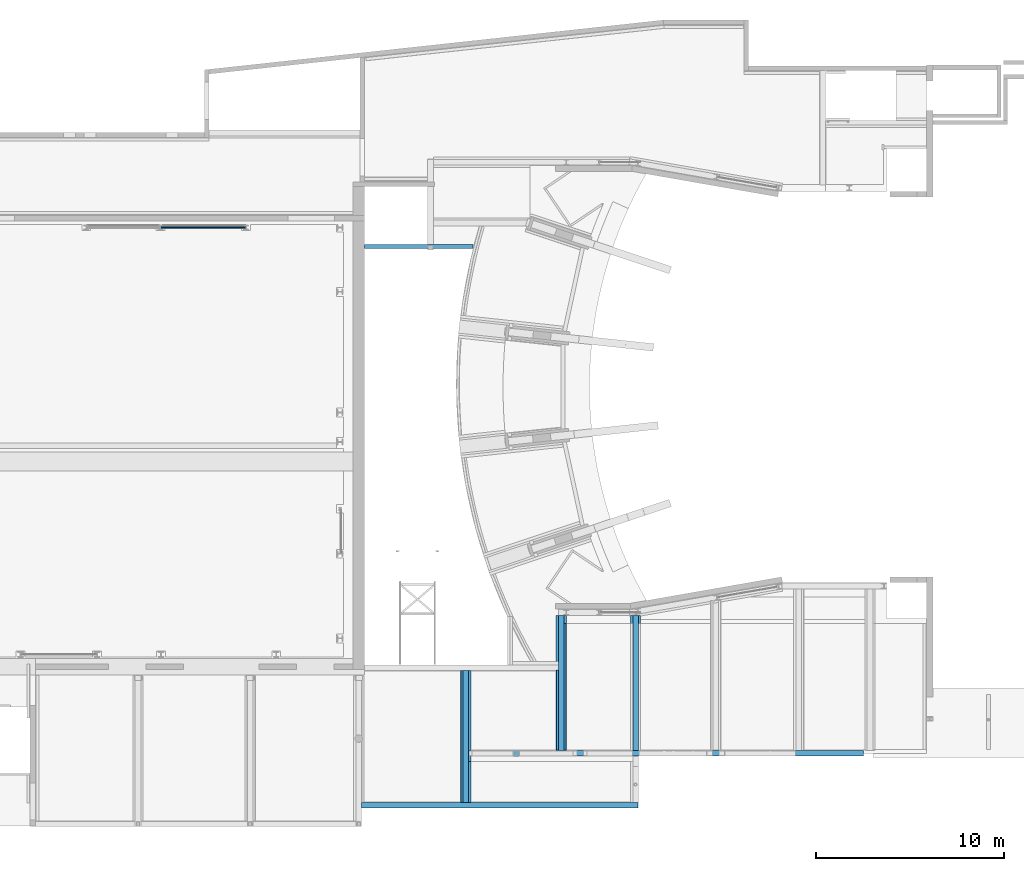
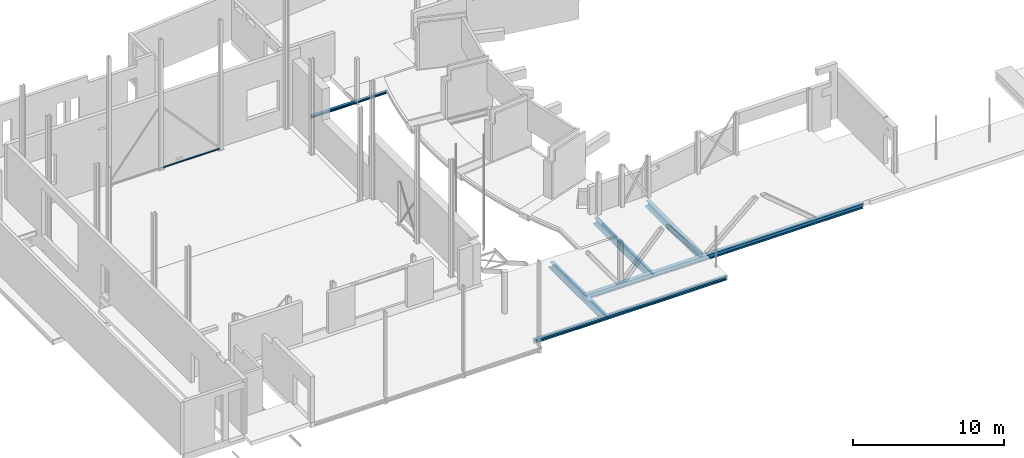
# One storey, part 14 of 37: 12 beams.
"""IFC2X3 building model written with IfcOpenShell, lengths in millimetres."""

from ifc_helpers import new_model, entity, si_unit, converted_unit, derived_unit, direction, frame, frame_2d, origin, origin_2d_with_axis, place, context, subcontext, project, spatial, polyline, circle_curve, parameter, trimmed, segment, composite_curve, rectangle, i_section, outline, extrude, source, transform, mapped, material, material_list, type_object, type_shapes, element, save


model = new_model("IFC2X3")

# Units and contexts
model_context = context("Model", 3, precision=0.01, world=origin(), true_north=direction((6.12303176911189e-17, 1.0)))
body_context = subcontext(model_context, "Body", "Model", "MODEL_VIEW")
ifc_project = project(units=[si_unit("LENGTHUNIT", "METRE", prefix="MILLI"), si_unit("AREAUNIT", "SQUARE_METRE", prefix="MILLI"), si_unit("VOLUMEUNIT", "CUBIC_METRE"), converted_unit("PLANEANGLEUNIT", "DEGREE", entity("IfcRatioMeasure", 0.0174532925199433), si_unit("PLANEANGLEUNIT", "RADIAN"), dimensions=[0, 0, 0, 0, 0, 0, 0]), si_unit("MASSUNIT", "GRAM", prefix="KILO"), derived_unit("MASSDENSITYUNIT", [(si_unit("MASSUNIT", "GRAM", prefix="KILO"), 1), (si_unit("LENGTHUNIT", "METRE"), -3)]), derived_unit("MOMENTOFINERTIAUNIT", [(si_unit("LENGTHUNIT", "METRE"), 4)]), si_unit("TIMEUNIT", "SECOND"), si_unit("FREQUENCYUNIT", "HERTZ"), si_unit("THERMODYNAMICTEMPERATUREUNIT", "DEGREE_CELSIUS"), derived_unit("THERMALTRANSMITTANCEUNIT", [(si_unit("MASSUNIT", "GRAM", prefix="KILO"), 1), (si_unit("THERMODYNAMICTEMPERATUREUNIT", "KELVIN"), -1), (si_unit("TIMEUNIT", "SECOND"), -3)]), derived_unit("VOLUMETRICFLOWRATEUNIT", [(si_unit("LENGTHUNIT", "METRE"), 3), (si_unit("TIMEUNIT", "SECOND"), -1)]), si_unit("ELECTRICCURRENTUNIT", "AMPERE"), si_unit("ELECTRICVOLTAGEUNIT", "VOLT"), si_unit("POWERUNIT", "WATT"), si_unit("FORCEUNIT", "NEWTON", prefix="KILO"), si_unit("ILLUMINANCEUNIT", "LUX"), si_unit("LUMINOUSFLUXUNIT", "LUMEN"), si_unit("LUMINOUSINTENSITYUNIT", "CANDELA"), derived_unit("USERDEFINED", [(si_unit("MASSUNIT", "GRAM", prefix="KILO"), -1), (si_unit("LENGTHUNIT", "METRE"), -2), (si_unit("TIMEUNIT", "SECOND"), 3), (si_unit("LUMINOUSFLUXUNIT", "LUMEN"), 1)]), derived_unit("LINEARVELOCITYUNIT", [(si_unit("LENGTHUNIT", "METRE"), 1), (si_unit("TIMEUNIT", "SECOND"), -1)]), si_unit("PRESSUREUNIT", "PASCAL"), derived_unit("USERDEFINED", [(si_unit("LENGTHUNIT", "METRE"), -2), (si_unit("MASSUNIT", "GRAM", prefix="KILO"), 1), (si_unit("TIMEUNIT", "SECOND"), -2)]), derived_unit("LINEARFORCEUNIT", [(si_unit("MASSUNIT", "GRAM", prefix="KILO"), 1), (si_unit("LENGTHUNIT", "METRE"), 1), (si_unit("TIMEUNIT", "SECOND"), -2), (si_unit("LENGTHUNIT", "METRE"), -1)]), derived_unit("PLANARFORCEUNIT", [(si_unit("MASSUNIT", "GRAM", prefix="KILO"), 1), (si_unit("LENGTHUNIT", "METRE"), 1), (si_unit("TIMEUNIT", "SECOND"), -2), (si_unit("LENGTHUNIT", "METRE"), -2)])], contexts=[model_context])

# Site, building, storey
site_placement = place(None, origin())
site = spatial("IfcSite", under=ifc_project, at=site_placement, Name="Theater aan de Parade", CompositionType="ELEMENT")
building_placement = place(site_placement, origin())
building = spatial("IfcBuilding", under=site, at=building_placement, Name="Theater aan de Parade", CompositionType="ELEMENT")
storey_placement = place(building_placement, frame((0.0, 0.0, 5020.0)))
storey = spatial("IfcBuildingStorey", under=building, at=storey_placement, Name="01 eerste verdieping", CompositionType="ELEMENT", Elevation=5020.0)

# Beams
ifc_material_1 = material(Name="00_PBT_MAT_staal_S355")
beam_type_1 = type_object("IfcBeamType", Name="28_PBT_SF_staal_H-profiel (void):S355_HE280B", PredefinedType="NOTDEFINED")
beam_1_placement = place(storey_placement, frame((52015.3051596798, 10197.0, 0.0), z_axis=(0.0, 0.0, 1.0), x_axis=(-1.0, 0.0, 0.0)))
element("IfcBeam", 1, at=beam_1_placement, inside=storey, type_object=beam_type_1, material=ifc_material_1, Name="28_PBT_SF_staal_H-profiel (void):S355_HE280B", ObjectType="28_PBT_SF_staal_H-profiel (void):S355_HE280B", context=body_context, shape_type="SweptSolid", body=[
    extrude(outline(composite_curve([segment(polyline([(122.0, -140.0), (140.0, -140.0)]), True, "CONTINUOUS"), segment(polyline([(140.0, -140.0), (140.0, 140.0)]), True, "CONTINUOUS"), segment(polyline([(140.0, 140.0), (122.0, 140.0)]), True, "CONTINUOUS"), segment(polyline([(122.0, 140.0), (122.0, 29.2500000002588)]), True, "CONTINUOUS"), segment(trimmed(circle_curve(frame_2d((98.0, 29.250000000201), x_axis=(1.0, 0.0)), 24.0000000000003), [parameter(270.000000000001)], [parameter(0.0)], True, "PARAMETER"), False, "CONTINUOUS"), segment(polyline([(98.0, 5.25000000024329), (-98.0, 5.24999999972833)]), True, "CONTINUOUS"), segment(trimmed(circle_curve(frame_2d((-98.0, 29.2499999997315), x_axis=(0.0, -1.0)), 24.0000000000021), [parameter(270.00000000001)], [parameter(0.0)], True, "PARAMETER"), False, "CONTINUOUS"), segment(polyline([(-122.0, 29.2499999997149), (-122.0, 140.0)]), True, "CONTINUOUS"), segment(polyline([(-122.0, 140.0), (-140.0, 140.0)]), True, "CONTINUOUS"), segment(polyline([(-140.0, 140.0), (-140.0, -140.0)]), True, "CONTINUOUS"), segment(polyline([(-140.0, -140.0), (-122.0, -140.0)]), True, "CONTINUOUS"), segment(polyline([(-122.0, -140.0), (-122.0, -29.2500000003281)]), True, "CONTINUOUS"), segment(trimmed(circle_curve(frame_2d((-98.0, -29.2500000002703), x_axis=(-1.0, 0.0)), 24.0000000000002), [parameter(270.0)], [parameter(0.0)], True, "PARAMETER"), False, "CONTINUOUS"), segment(polyline([(-98.0, -5.25000000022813), (98.0, -5.2499999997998)]), True, "CONTINUOUS"), segment(trimmed(circle_curve(frame_2d((98.0, -29.2499999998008), x_axis=(0.0, 1.0)), 24.0000000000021), [parameter(270.00000000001)], [parameter(0.0)], True, "PARAMETER"), False, "CONTINUOUS"), segment(polyline([(122.0, -29.2499999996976), (122.0, -140.0)]), True, "CONTINUOUS")], self_intersect=False)), frame((0.0, 0.0, -320.0), z_axis=(1.0, 0.0, 0.0), x_axis=(0.0, 0.0, -1.0)), (0.0, 0.0, 1.0), 14711.4470295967),
])
beam_type_2 = type_object("IfcBeamType", Name="28_PBT_SF_staal_H-profiel (void):S355_HE400B", PredefinedType="NOTDEFINED")
beam_2_placement = place(storey_placement, frame((42694.5520755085, 12955.0, -340.0)))
element("IfcBeam", 2, at=beam_2_placement, inside=storey, type_object=beam_type_2, material=ifc_material_1, Name="28_PBT_SF_staal_H-profiel (void):S355_HE400B", ObjectType="28_PBT_SF_staal_H-profiel (void):S355_HE400B", context=body_context, shape_type="SweptSolid", body=[
    extrude(i_section(OverallWidth=300.000000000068, OverallDepth=400.0, WebThickness=13.4999999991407, FlangeThickness=23.9999999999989, FilletRadius=27.0000000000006, at=frame_2d((0.0, 0.0), x_axis=(0.0, 1.0))), frame((0.0, 0.0, 0.0), z_axis=(1.0, 0.0, 0.0), x_axis=(0.0, 0.0, -1.0)), (0.0, 0.0, 1.0), 21300.0),
])
beam_type_3 = type_object("IfcBeamType", Name="28_PBT_SF_staal_H-profiel (void):S355_HE200A", PredefinedType="NOTDEFINED")
beam_3_placement = place(storey_placement, frame((43240.4403482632, 39911.0, 0.0), z_axis=(0.0, 0.0, 1.0), x_axis=(-1.0, 0.0, 0.0)))
element("IfcBeam", 3, at=beam_3_placement, inside=storey, type_object=beam_type_3, material=ifc_material_1, Name="28_PBT_SF_staal_H-profiel (void):S355_HE200A", ObjectType="28_PBT_SF_staal_H-profiel (void):S355_HE200A", context=body_context, shape_type="SweptSolid", body=[
    extrude(outline(composite_curve([segment(polyline([(85.0, -100.0), (95.0, -100.0)]), True, "CONTINUOUS"), segment(polyline([(95.0, -100.0), (95.0, 100.0)]), True, "CONTINUOUS"), segment(polyline([(95.0, 100.0), (85.0, 100.0)]), True, "CONTINUOUS"), segment(polyline([(85.0, 100.0), (85.0, 21.2500000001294)]), True, "CONTINUOUS"), segment(trimmed(circle_curve(frame_2d((67.0, 21.2500000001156), x_axis=(1.0, 0.0)), 17.9999999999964), [parameter(269.999999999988)], [parameter(0.0)], True, "PARAMETER"), False, "CONTINUOUS"), segment(polyline([(67.0, 3.25000000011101), (-67.0, 3.24999999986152)]), True, "CONTINUOUS"), segment(trimmed(circle_curve(frame_2d((-67.0, 21.2499999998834), x_axis=(0.0, -1.0)), 17.9999999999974), [parameter(269.99999999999)], [parameter(0.0)], True, "PARAMETER"), False, "CONTINUOUS"), segment(polyline([(-85.0, 21.2499999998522), (-85.0, 100.0)]), True, "CONTINUOUS"), segment(polyline([(-85.0, 100.0), (-95.0, 100.0)]), True, "CONTINUOUS"), segment(polyline([(-95.0, 100.0), (-95.0, -100.0)]), True, "CONTINUOUS"), segment(polyline([(-95.0, -100.0), (-85.0, -100.0)]), True, "CONTINUOUS"), segment(polyline([(-85.0, -100.0), (-85.0, -21.2500000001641)]), True, "CONTINUOUS"), segment(trimmed(circle_curve(frame_2d((-67.0, -21.2500000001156), x_axis=(-1.0, 0.0)), 17.9999999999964), [parameter(269.999999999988)], [parameter(0.0)], True, "PARAMETER"), False, "CONTINUOUS"), segment(polyline([(-67.0, -3.25000000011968), (67.0, -3.24999999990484)]), True, "CONTINUOUS"), segment(trimmed(circle_curve(frame_2d((67.0, -21.2499999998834), x_axis=(0.0, 1.0)), 17.9999999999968), [parameter(269.99999999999)], [parameter(0.0)], True, "PARAMETER"), False, "CONTINUOUS"), segment(polyline([(85.0, -21.2499999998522), (85.0, -100.0)]), True, "CONTINUOUS")], self_intersect=False)), frame((0.0, 0.0, -285.0), z_axis=(1.0, 0.0, 0.0), x_axis=(0.0, 0.0, -1.0)), (0.0, 0.0, 1.0), 5786.58221817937),
])
ifc_material_2 = material(Name="00_PBT_MAT_staal_S235")
beam_type_4 = type_object("IfcBeamType", Name="28_PBT_SF_staal_koker:S235_K80x120x6.3", PredefinedType="NOTDEFINED")
beam_4_placement = place(storey_placement, frame((43114.5520755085, 10337.0, 0.0), z_axis=(0.0, 0.0, 1.0), x_axis=(0.0, 1.0, 0.0)))
element("IfcBeam", 4, at=beam_4_placement, inside=storey, type_object=beam_type_4, material=ifc_material_2, Name="28_PBT_SF_staal_koker:S235_K80x120x6.3", ObjectType="28_PBT_SF_staal_koker:S235_K80x120x6.3", context=body_context, shape_type="SweptSolid", body=[
    extrude(outline(composite_curve([segment(polyline([(-30.5500000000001, -60.0), (30.5499999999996, -60.0)]), True, "CONTINUOUS"), segment(trimmed(circle_curve(frame_2d((30.5499999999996, -50.5500000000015), x_axis=(0.0, 1.0)), 9.45), [parameter(180.0)], [parameter(270.0)], True, "PARAMETER"), True, "CONTINUOUS"), segment(polyline([(40.0, -50.5500000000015), (40.0, 50.5500000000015)]), True, "CONTINUOUS"), segment(trimmed(circle_curve(frame_2d((30.5499999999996, 50.5500000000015), x_axis=(0.0, 1.0)), 9.45), [parameter(270.0)], [parameter(360.0)], True, "PARAMETER"), True, "CONTINUOUS"), segment(polyline([(30.5499999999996, 60.0), (-30.5500000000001, 60.0)]), True, "CONTINUOUS"), segment(trimmed(circle_curve(frame_2d((-30.5500000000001, 50.5500000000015), x_axis=(0.0, 1.0)), 9.45), [parameter(0.0)], [parameter(90.0000000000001)], True, "PARAMETER"), True, "CONTINUOUS"), segment(polyline([(-40.0, 50.5500000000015), (-40.0, -50.5500000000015)]), True, "CONTINUOUS"), segment(trimmed(circle_curve(frame_2d((-30.5500000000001, -50.5500000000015), x_axis=(0.0, 1.0)), 9.45), [parameter(90.0)], [parameter(180.0)], True, "PARAMETER"), True, "CONTINUOUS")], self_intersect=False), holes=[composite_curve([segment(polyline([(33.6999999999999, 47.3999999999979), (33.6999999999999, -47.3999999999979)]), True, "CONTINUOUS"), segment(trimmed(circle_curve(frame_2d((27.3999999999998, -47.3999999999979), x_axis=(0.0, 1.0)), 6.3), [parameter(180.0)], [parameter(270.0)], True, "PARAMETER"), False, "CONTINUOUS"), segment(polyline([(27.3999999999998, -53.6999999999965), (-27.4000000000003, -53.6999999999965)]), True, "CONTINUOUS"), segment(trimmed(circle_curve(frame_2d((-27.4000000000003, -47.3999999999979), x_axis=(0.0, 1.0)), 6.3), [parameter(90.0)], [parameter(180.0)], True, "PARAMETER"), False, "CONTINUOUS"), segment(polyline([(-33.7000000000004, -47.3999999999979), (-33.7000000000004, 47.3999999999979)]), True, "CONTINUOUS"), segment(trimmed(circle_curve(frame_2d((-27.4000000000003, 47.3999999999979), x_axis=(0.0, 1.0)), 6.3), [parameter(4.07110999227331e-13)], [parameter(90.0000000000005)], True, "PARAMETER"), False, "CONTINUOUS"), segment(polyline([(-27.4000000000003, 53.6999999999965), (27.3999999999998, 53.6999999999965)]), True, "CONTINUOUS"), segment(trimmed(circle_curve(frame_2d((27.3999999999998, 47.3999999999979), x_axis=(0.0, 1.0)), 6.3), [parameter(270.0)], [parameter(360.0)], True, "PARAMETER"), False, "CONTINUOUS")], self_intersect=False)]), frame((0.0, 60.0, -505.0), z_axis=(1.0, 0.0, 0.0), x_axis=(0.0, 0.0, 1.0)), (0.0, 0.0, 1.0), 2182.99999999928),
])
beam_5_placement = place(storey_placement, frame((42574.5520755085, 17350.244375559, 0.0), z_axis=(0.0, 0.0, 1.0), x_axis=(0.0, -1.0, 0.0)))
element("IfcBeam", 5, at=beam_5_placement, inside=storey, type_object=beam_type_4, material=ifc_material_2, Name="28_PBT_SF_staal_koker:S235_K80x120x6.3", ObjectType="28_PBT_SF_staal_koker:S235_K80x120x6.3", context=body_context, shape_type="SweptSolid", body=[
    extrude(outline(composite_curve([segment(polyline([(-30.5500000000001, -60.0), (30.5499999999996, -60.0)]), True, "CONTINUOUS"), segment(trimmed(circle_curve(frame_2d((30.5499999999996, -50.5500000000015), x_axis=(0.0, 1.0)), 9.45), [parameter(180.0)], [parameter(270.0)], True, "PARAMETER"), True, "CONTINUOUS"), segment(polyline([(40.0, -50.5500000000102), (40.0, 50.5499999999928)]), True, "CONTINUOUS"), segment(trimmed(circle_curve(frame_2d((30.5499999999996, 50.5500000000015), x_axis=(0.0, 1.0)), 9.45), [parameter(270.0)], [parameter(360.0)], True, "PARAMETER"), True, "CONTINUOUS"), segment(polyline([(30.5499999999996, 60.0), (-30.5500000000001, 60.0)]), True, "CONTINUOUS"), segment(trimmed(circle_curve(frame_2d((-30.5500000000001, 50.5500000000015), x_axis=(0.0, 1.0)), 9.45), [parameter(0.0)], [parameter(90.0000000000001)], True, "PARAMETER"), True, "CONTINUOUS"), segment(polyline([(-40.0, 50.5499999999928), (-40.0, -50.5500000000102)]), True, "CONTINUOUS"), segment(trimmed(circle_curve(frame_2d((-30.5500000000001, -50.5500000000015), x_axis=(0.0, 1.0)), 9.45), [parameter(90.0)], [parameter(180.0)], True, "PARAMETER"), True, "CONTINUOUS")], self_intersect=False), holes=[composite_curve([segment(polyline([(33.6999999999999, 47.3999999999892), (33.6999999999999, -47.4000000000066)]), True, "CONTINUOUS"), segment(trimmed(circle_curve(frame_2d((27.3999999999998, -47.3999999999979), x_axis=(0.0, 1.0)), 6.3), [parameter(180.0)], [parameter(270.0)], True, "PARAMETER"), False, "CONTINUOUS"), segment(polyline([(27.3999999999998, -53.7000000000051), (-27.4000000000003, -53.7000000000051)]), True, "CONTINUOUS"), segment(trimmed(circle_curve(frame_2d((-27.4000000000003, -47.3999999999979), x_axis=(0.0, 1.0)), 6.3), [parameter(90.0)], [parameter(180.0)], True, "PARAMETER"), False, "CONTINUOUS"), segment(polyline([(-33.7000000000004, -47.4000000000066), (-33.7000000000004, 47.3999999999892)]), True, "CONTINUOUS"), segment(trimmed(circle_curve(frame_2d((-27.4000000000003, 47.3999999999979), x_axis=(0.0, 1.0)), 6.3), [parameter(4.07110999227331e-13)], [parameter(90.0000000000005)], True, "PARAMETER"), False, "CONTINUOUS"), segment(polyline([(-27.4000000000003, 53.6999999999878), (27.3999999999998, 53.6999999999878)]), True, "CONTINUOUS"), segment(trimmed(circle_curve(frame_2d((27.3999999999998, 47.3999999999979), x_axis=(0.0, 1.0)), 6.3), [parameter(270.0)], [parameter(360.0)], True, "PARAMETER"), False, "CONTINUOUS")], self_intersect=False)]), frame((0.0, 60.0, -505.0), z_axis=(1.0, 0.0, 0.0), x_axis=(0.0, 0.0, 1.0)), (0.0, 0.0, 1.0), 7013.24437555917),
])
beam_6_placement = place(storey_placement, frame((43114.5520755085, 17350.244375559, 0.0), z_axis=(0.0, 0.0, 1.0), x_axis=(0.0, -1.0, 0.0)))
element("IfcBeam", 6, at=beam_6_placement, inside=storey, type_object=beam_type_4, material=ifc_material_2, Name="28_PBT_SF_staal_koker:S235_K80x120x6.3", ObjectType="28_PBT_SF_staal_koker:S235_K80x120x6.3", context=body_context, shape_type="SweptSolid", body=[
    extrude(outline(composite_curve([segment(trimmed(circle_curve(frame_2d((-50.5500000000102, -30.5500000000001), x_axis=(1.0, 0.0)), 9.45), [parameter(180.0)], [parameter(270.0)], True, "PARAMETER"), True, "CONTINUOUS"), segment(polyline([(-50.5500000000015, -40.0), (50.5500000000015, -40.0)]), True, "CONTINUOUS"), segment(trimmed(circle_curve(frame_2d((50.5499999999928, -30.5500000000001), x_axis=(1.0, 0.0)), 9.45), [parameter(270.0)], [parameter(0.0)], True, "PARAMETER"), True, "CONTINUOUS"), segment(polyline([(60.0, -30.5500000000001), (60.0, 30.5499999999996)]), True, "CONTINUOUS"), segment(trimmed(circle_curve(frame_2d((50.5499999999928, 30.5499999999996), x_axis=(1.0, 0.0)), 9.45), [parameter(3.56222124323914e-13)], [parameter(90.0000000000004)], True, "PARAMETER"), True, "CONTINUOUS"), segment(polyline([(50.5500000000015, 40.0), (-50.5500000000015, 40.0)]), True, "CONTINUOUS"), segment(trimmed(circle_curve(frame_2d((-50.5500000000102, 30.5499999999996), x_axis=(1.0, 0.0)), 9.45), [parameter(90.0000000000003)], [parameter(180.0)], True, "PARAMETER"), True, "CONTINUOUS"), segment(polyline([(-60.0, 30.5499999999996), (-60.0, -30.5500000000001)]), True, "CONTINUOUS")], self_intersect=False), holes=[composite_curve([segment(trimmed(circle_curve(frame_2d((47.3999999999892, 27.3999999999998), x_axis=(1.0, 0.0)), 6.3), [parameter(5.08888749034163e-14)], [parameter(90.0000000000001)], True, "PARAMETER"), False, "CONTINUOUS"), segment(polyline([(53.6999999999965, 27.3999999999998), (53.6999999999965, -27.4000000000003)]), True, "CONTINUOUS"), segment(trimmed(circle_curve(frame_2d((47.3999999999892, -27.4000000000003), x_axis=(1.0, 0.0)), 6.3), [parameter(269.999999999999)], [parameter(360.0)], True, "PARAMETER"), False, "CONTINUOUS"), segment(polyline([(47.3999999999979, -33.7000000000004), (-47.3999999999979, -33.7000000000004)]), True, "CONTINUOUS"), segment(trimmed(circle_curve(frame_2d((-47.4000000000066, -27.4000000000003), x_axis=(1.0, 0.0)), 6.3), [parameter(180.0)], [parameter(270.0)], True, "PARAMETER"), False, "CONTINUOUS"), segment(polyline([(-53.6999999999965, -27.4000000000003), (-53.6999999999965, 27.3999999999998)]), True, "CONTINUOUS"), segment(trimmed(circle_curve(frame_2d((-47.4000000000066, 27.3999999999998), x_axis=(1.0, 0.0)), 6.3), [parameter(89.9999999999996)], [parameter(180.0)], True, "PARAMETER"), False, "CONTINUOUS"), segment(polyline([(-47.3999999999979, 33.6999999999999), (47.3999999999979, 33.6999999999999)]), True, "CONTINUOUS")], self_intersect=False)]), frame((0.0, -60.0, -505.0), z_axis=(1.0, 0.0, 0.0), x_axis=(0.0, 1.0, 0.0)), (0.0, 0.0, 1.0), 4245.24437555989),
])
beam_7_placement = place(storey_placement, frame((47651.4115208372, 17381.3084468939, 0.0), z_axis=(0.0, 0.0, 1.0), x_axis=(0.0, -1.0, 0.0)))
element("IfcBeam", 7, at=beam_7_placement, inside=storey, type_object=beam_type_4, material=ifc_material_2, Name="28_PBT_SF_staal_koker:S235_K80x120x6.3", ObjectType="28_PBT_SF_staal_koker:S235_K80x120x6.3", context=body_context, shape_type="SweptSolid", body=[
    extrude(outline(composite_curve([segment(polyline([(-30.5500000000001, -60.0), (30.5499999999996, -60.0)]), True, "CONTINUOUS"), segment(trimmed(circle_curve(frame_2d((30.5499999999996, -50.5499999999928), x_axis=(0.0, 1.0)), 9.45), [parameter(180.0)], [parameter(270.0)], True, "PARAMETER"), True, "CONTINUOUS"), segment(polyline([(40.0, -50.5500000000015), (40.0, 50.5500000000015)]), True, "CONTINUOUS"), segment(trimmed(circle_curve(frame_2d((30.5499999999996, 50.5500000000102), x_axis=(0.0, 1.0)), 9.45), [parameter(270.0)], [parameter(360.0)], True, "PARAMETER"), True, "CONTINUOUS"), segment(polyline([(30.5499999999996, 60.0), (-30.5500000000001, 60.0)]), True, "CONTINUOUS"), segment(trimmed(circle_curve(frame_2d((-30.5500000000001, 50.5500000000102), x_axis=(0.0, 1.0)), 9.45), [parameter(0.0)], [parameter(90.0000000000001)], True, "PARAMETER"), True, "CONTINUOUS"), segment(polyline([(-40.0, 50.5500000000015), (-40.0, -50.5500000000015)]), True, "CONTINUOUS"), segment(trimmed(circle_curve(frame_2d((-30.5500000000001, -50.5499999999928), x_axis=(0.0, 1.0)), 9.45), [parameter(90.0)], [parameter(180.0)], True, "PARAMETER"), True, "CONTINUOUS")], self_intersect=False), holes=[composite_curve([segment(polyline([(33.6999999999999, 47.3999999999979), (33.6999999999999, -47.3999999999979)]), True, "CONTINUOUS"), segment(trimmed(circle_curve(frame_2d((27.3999999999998, -47.3999999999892), x_axis=(0.0, 1.0)), 6.3), [parameter(180.0)], [parameter(270.0)], True, "PARAMETER"), False, "CONTINUOUS"), segment(polyline([(27.3999999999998, -53.6999999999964), (-27.4000000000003, -53.6999999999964)]), True, "CONTINUOUS"), segment(trimmed(circle_curve(frame_2d((-27.4000000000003, -47.3999999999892), x_axis=(0.0, 1.0)), 6.3), [parameter(90.0)], [parameter(180.0)], True, "PARAMETER"), False, "CONTINUOUS"), segment(polyline([(-33.7000000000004, -47.3999999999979), (-33.7000000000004, 47.3999999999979)]), True, "CONTINUOUS"), segment(trimmed(circle_curve(frame_2d((-27.4000000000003, 47.4000000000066), x_axis=(0.0, 1.0)), 6.3), [parameter(4.07110999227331e-13)], [parameter(90.0000000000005)], True, "PARAMETER"), False, "CONTINUOUS"), segment(polyline([(-27.4000000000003, 53.6999999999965), (27.3999999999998, 53.6999999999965)]), True, "CONTINUOUS"), segment(trimmed(circle_curve(frame_2d((27.3999999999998, 47.4000000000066), x_axis=(0.0, 1.0)), 6.3), [parameter(270.0)], [parameter(360.0)], True, "PARAMETER"), False, "CONTINUOUS")], self_intersect=False)]), frame((0.0, 60.0, -505.0), z_axis=(1.0, 0.0, 0.0), x_axis=(0.0, 0.0, 1.0)), (0.0, 0.0, 1.0), 4256.30844689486),
])
beam_8_placement = place(storey_placement, frame((48191.4115208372, 19866.34014876, 0.0), z_axis=(0.0, 0.0, 1.0), x_axis=(0.0, -1.0, 0.0)))
element("IfcBeam", 8, at=beam_8_placement, inside=storey, type_object=beam_type_4, material=ifc_material_2, Name="28_PBT_SF_staal_koker:S235_K80x120x6.3", ObjectType="28_PBT_SF_staal_koker:S235_K80x120x6.3", context=body_context, shape_type="SweptSolid", body=[
    extrude(outline(composite_curve([segment(trimmed(circle_curve(frame_2d((-50.5500000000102, -30.5500000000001), x_axis=(1.0, 0.0)), 9.45), [parameter(180.0)], [parameter(270.0)], True, "PARAMETER"), True, "CONTINUOUS"), segment(polyline([(-50.5500000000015, -40.0), (50.5500000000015, -40.0)]), True, "CONTINUOUS"), segment(trimmed(circle_curve(frame_2d((50.5499999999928, -30.5500000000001), x_axis=(1.0, 0.0)), 9.45), [parameter(270.0)], [parameter(0.0)], True, "PARAMETER"), True, "CONTINUOUS"), segment(polyline([(60.0, -30.5500000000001), (60.0, 30.5499999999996)]), True, "CONTINUOUS"), segment(trimmed(circle_curve(frame_2d((50.5499999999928, 30.5499999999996), x_axis=(1.0, 0.0)), 9.45), [parameter(3.56222124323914e-13)], [parameter(90.0000000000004)], True, "PARAMETER"), True, "CONTINUOUS"), segment(polyline([(50.5500000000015, 40.0), (-50.5500000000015, 40.0)]), True, "CONTINUOUS"), segment(trimmed(circle_curve(frame_2d((-50.5500000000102, 30.5499999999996), x_axis=(1.0, 0.0)), 9.45), [parameter(90.0000000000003)], [parameter(180.0)], True, "PARAMETER"), True, "CONTINUOUS"), segment(polyline([(-60.0, 30.5499999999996), (-60.0, -30.5500000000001)]), True, "CONTINUOUS")], self_intersect=False), holes=[composite_curve([segment(trimmed(circle_curve(frame_2d((47.3999999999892, 27.3999999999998), x_axis=(1.0, 0.0)), 6.3), [parameter(5.08888749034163e-14)], [parameter(90.0000000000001)], True, "PARAMETER"), False, "CONTINUOUS"), segment(polyline([(53.6999999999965, 27.3999999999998), (53.6999999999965, -27.4000000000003)]), True, "CONTINUOUS"), segment(trimmed(circle_curve(frame_2d((47.3999999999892, -27.4000000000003), x_axis=(1.0, 0.0)), 6.3), [parameter(269.999999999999)], [parameter(360.0)], True, "PARAMETER"), False, "CONTINUOUS"), segment(polyline([(47.3999999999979, -33.7000000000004), (-47.3999999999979, -33.7000000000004)]), True, "CONTINUOUS"), segment(trimmed(circle_curve(frame_2d((-47.4000000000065, -27.4000000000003), x_axis=(1.0, 0.0)), 6.3), [parameter(180.0)], [parameter(270.0)], True, "PARAMETER"), False, "CONTINUOUS"), segment(polyline([(-53.6999999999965, -27.4000000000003), (-53.6999999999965, 27.3999999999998)]), True, "CONTINUOUS"), segment(trimmed(circle_curve(frame_2d((-47.4000000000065, 27.3999999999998), x_axis=(1.0, 0.0)), 6.3), [parameter(89.9999999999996)], [parameter(180.0)], True, "PARAMETER"), False, "CONTINUOUS"), segment(polyline([(-47.3999999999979, 33.6999999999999), (47.3999999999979, 33.6999999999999)]), True, "CONTINUOUS")], self_intersect=False)]), frame((0.0, -60.0, -505.0), z_axis=(1.0, 0.0, 0.0), x_axis=(0.0, 1.0, 0.0)), (0.0, 0.0, 1.0), 6741.34014876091),
])
ifc_material_3 = material(Name="00_PBT_MAT_Lucht")
ifc_material_list_1 = material_list([ifc_material_1, ifc_material_3])
beam_type_5 = type_object("IfcBeamType", Name="28_PBT_SF_staal_H-profiel_met_onderplaat (void):S355_HE400B + onderplaat d=25", PredefinedType="BEAM", material=ifc_material_list_1)
shared_shape_1 = source(origin(), body_context, "Body", "SweptSolid", [
    extrude(i_section(OverallWidth=300.000000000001, OverallDepth=400.0, WebThickness=13.4999999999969, FlangeThickness=23.9999999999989, FilletRadius=26.9999999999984, at=frame_2d((-8.65441052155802e-12, 0.0), x_axis=(1.0, 0.0))), frame((42844.5520755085, 17350.244375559, 4675.0), z_axis=(0.0, -1.0, 0.0), x_axis=(-1.0, 0.0, 0.0)), (0.0, 0.0, 1.0), 7013.24437555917),
    extrude(rectangle(XDim=24.9999999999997, YDim=540.000000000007, at=frame_2d((-4.32009983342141e-12, 0.0), x_axis=(0.0, 1.0))), frame((42844.5520755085, 17350.244375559, 4462.5), z_axis=(0.0, -1.0, 0.0), x_axis=(-1.0, 0.0, 0.0)), (0.0, 0.0, 1.0), 7013.24437555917),
])
type_shapes(beam_type_5, [shared_shape_1])
beam_9_placement = place(storey_placement, frame((0.0, 0.0, -5020.0)))
element("IfcBeam", 9, at=beam_9_placement, inside=storey, type_object=beam_type_5, material=ifc_material_1, Name="28_PBT_SF_staal_H-profiel_met_onderplaat (void):S355_HE400B + onderplaat d=25", ObjectType="28_PBT_SF_staal_H-profiel_met_onderplaat (void):S355_HE400B + onderplaat d=25", context=body_context, shape_type="MappedRepresentation", body=[
    mapped(shared_shape_1, transform((0.0, 0.0, 0.0), scale=1.0)),
])
ifc_material_list_2 = material_list([ifc_material_3, ifc_material_1])
beam_type_6 = type_object("IfcBeamType", Name="28_PBT_SF_staal_H-profiel_met_onderplaat (void):S355_HE400B + onderplaat d=25", PredefinedType="BEAM", material=ifc_material_list_2)
shared_shape_2 = source(origin(), body_context, "Body", "SweptSolid", [
    extrude(i_section(OverallWidth=300.000000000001, OverallDepth=400.0, WebThickness=13.4999999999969, FlangeThickness=23.9999999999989, FilletRadius=26.9999999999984, at=origin_2d_with_axis()), frame((47921.4115208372, 20295.0, 4675.0), z_axis=(0.0, -1.0, 0.0), x_axis=(-1.0, 0.0, 0.0)), (0.0, 0.0, 1.0), 7190.00000000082),
    extrude(rectangle(XDim=24.9999999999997, YDim=540.000000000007, at=frame_2d((-4.32009983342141e-12, 0.0), x_axis=(0.0, 1.0))), frame((47921.4115208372, 20295.0, 4462.5), z_axis=(0.0, -1.0, 0.0), x_axis=(-1.0, 0.0, 0.0)), (0.0, 0.0, 1.0), 7190.00000000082),
])
type_shapes(beam_type_6, [shared_shape_2])
beam_10_placement = place(storey_placement, frame((0.0, 0.0, -5020.0)))
element("IfcBeam", 10, at=beam_10_placement, inside=storey, type_object=beam_type_6, material=ifc_material_1, Name="28_PBT_SF_staal_H-profiel_met_onderplaat (void):S355_HE400B + onderplaat d=25", ObjectType="28_PBT_SF_staal_H-profiel_met_onderplaat (void):S355_HE400B + onderplaat d=25", context=body_context, shape_type="MappedRepresentation", body=[
    mapped(shared_shape_2, transform((0.0, 0.0, 0.0), scale=1.0)),
])
ifc_material_list_3 = material_list([ifc_material_3, ifc_material_1])
beam_type_7 = type_object("IfcBeamType", Name="28_PBT_SF_staal_H-profiel_met_onderplaat (void):S355_HE400B + onderplaat d=15", PredefinedType="BEAM", material=ifc_material_list_3)
shared_shape_3 = source(origin(), body_context, "Body", "SweptSolid", [
    extrude(i_section(OverallWidth=300.000000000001, OverallDepth=400.0, WebThickness=13.4999999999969, FlangeThickness=23.9999999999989, FilletRadius=26.9999999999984, at=origin_2d_with_axis()), frame((51875.3051596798, 20295.0, 4675.0), z_axis=(0.0, -1.0, 0.0), x_axis=(-1.0, 0.0, 0.0)), (0.0, 0.0, 1.0), 7190.00000000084),
    extrude(rectangle(XDim=14.9999999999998, YDim=539.999999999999, at=frame_2d((0.0, 2.70894418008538e-13), x_axis=(0.0, 1.0))), frame((51875.3051596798, 20295.0, 4467.5), z_axis=(0.0, -1.0, 0.0), x_axis=(-1.0, 0.0, 0.0)), (0.0, 0.0, 1.0), 7190.00000000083),
])
type_shapes(beam_type_7, [shared_shape_3])
beam_11_placement = place(storey_placement, frame((0.0, 0.0, -5020.0)))
element("IfcBeam", 11, at=beam_11_placement, inside=storey, type_object=beam_type_7, material=ifc_material_1, Name="28_PBT_SF_staal_H-profiel_met_onderplaat (void):S355_HE400B + onderplaat d=15", ObjectType="28_PBT_SF_staal_H-profiel_met_onderplaat (void):S355_HE400B + onderplaat d=15", context=body_context, shape_type="MappedRepresentation", body=[
    mapped(shared_shape_3, transform((0.0, 0.0, 0.0), scale=1.0)),
])
beam_type_8 = type_object("IfcBeamType", Name="28_PBT_SF_staal_koker:S355_K80x80x5", PredefinedType="NOTDEFINED")
beam_12_placement = place(storey_placement, frame((26608.8570032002, 40923.308327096, 0.0)))
element("IfcBeam", 12, at=beam_12_placement, inside=storey, type_object=beam_type_8, material=ifc_material_1, Name="28_PBT_SF_staal_koker:S355_K80x80x5", ObjectType="28_PBT_SF_staal_koker:S355_K80x80x5", context=body_context, shape_type="SweptSolid", body=[
    extrude(outline(composite_curve([segment(polyline([(-32.5000000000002, -40.0), (32.4999999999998, -40.0)]), True, "CONTINUOUS"), segment(trimmed(circle_curve(frame_2d((32.4999999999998, -32.4999999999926), x_axis=(0.0, 1.0)), 7.5), [parameter(180.0)], [parameter(270.0)], True, "PARAMETER"), True, "CONTINUOUS"), segment(polyline([(40.0, -32.4999999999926), (40.0, 32.5000000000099)]), True, "CONTINUOUS"), segment(trimmed(circle_curve(frame_2d((32.4999999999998, 32.5000000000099), x_axis=(0.0, 1.0)), 7.5), [parameter(270.0)], [parameter(360.0)], True, "PARAMETER"), True, "CONTINUOUS"), segment(polyline([(32.4999999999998, 40.0), (-32.5000000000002, 40.0)]), True, "CONTINUOUS"), segment(trimmed(circle_curve(frame_2d((-32.5000000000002, 32.5000000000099), x_axis=(0.0, 1.0)), 7.5), [parameter(0.0)], [parameter(90.0000000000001)], True, "PARAMETER"), True, "CONTINUOUS"), segment(polyline([(-40.0, 32.5000000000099), (-40.0, -32.4999999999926)]), True, "CONTINUOUS"), segment(trimmed(circle_curve(frame_2d((-32.5000000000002, -32.4999999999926), x_axis=(0.0, 1.0)), 7.5), [parameter(90.0)], [parameter(180.0)], True, "PARAMETER"), True, "CONTINUOUS")], self_intersect=False), holes=[composite_curve([segment(polyline([(35.0, 30.0), (35.0, -30.0)]), True, "CONTINUOUS"), segment(trimmed(circle_curve(frame_2d((30.0, -30.0), x_axis=(0.0, 1.0)), 5.0), [parameter(180.0)], [parameter(270.0)], True, "PARAMETER"), False, "CONTINUOUS"), segment(polyline([(30.0, -35.0), (-30.0, -35.0)]), True, "CONTINUOUS"), segment(trimmed(circle_curve(frame_2d((-30.0, -30.0), x_axis=(0.0, 1.0)), 5.0), [parameter(90.0)], [parameter(180.0)], True, "PARAMETER"), False, "CONTINUOUS"), segment(polyline([(-35.0, -30.0), (-35.0, 30.0)]), True, "CONTINUOUS"), segment(trimmed(circle_curve(frame_2d((-30.0, 30.0), x_axis=(0.0, 1.0)), 5.0), [parameter(4.07110999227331e-13)], [parameter(90.0000000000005)], True, "PARAMETER"), False, "CONTINUOUS"), segment(polyline([(-30.0, 35.0), (30.0, 35.0)]), True, "CONTINUOUS"), segment(trimmed(circle_curve(frame_2d((30.0, 30.0), x_axis=(0.0, 1.0)), 5.0), [parameter(270.0)], [parameter(5.08888749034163e-14)], True, "PARAMETER"), False, "CONTINUOUS")], self_intersect=False)]), frame((0.0, 0.0, -1250.0), z_axis=(1.0, 0.0, 0.0), x_axis=(0.0, 0.0, 1.0)), (0.0, 0.0, 1.0), 4540.0),
])

save(model, "model.ifc")
